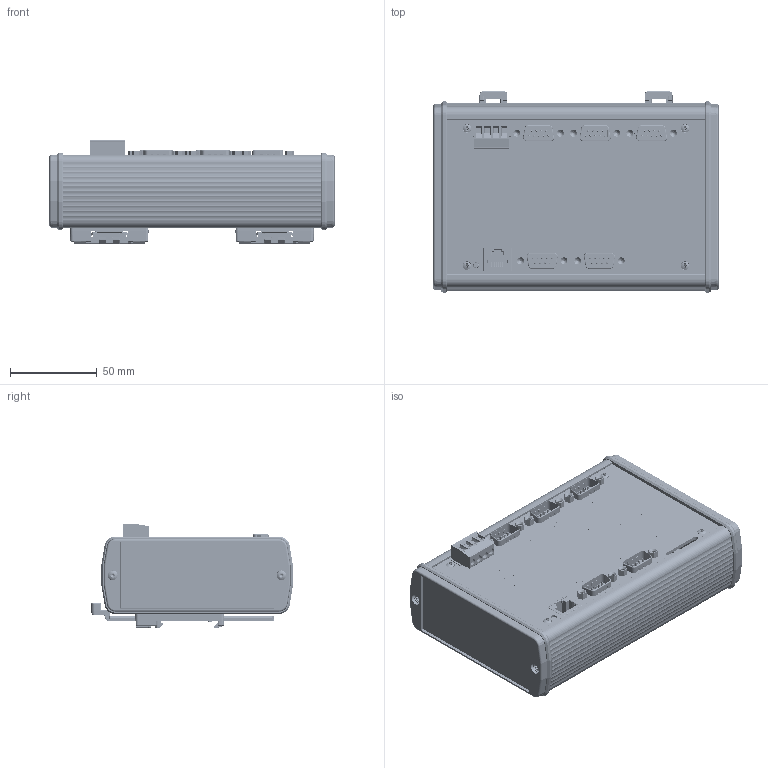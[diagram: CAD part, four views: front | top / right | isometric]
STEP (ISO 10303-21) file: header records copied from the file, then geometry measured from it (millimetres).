
FILE_DESCRIPTION(('STEP AP203'), '1');
FILE_NAME('扻艜豂錭歑 BCP-A9_', '', ('UNSPECIFIED'), ('UNSPECIFIED'), 'ASCON STEP Converter 1.3', 'ASCON Math Kernel', '');
FILE_SCHEMA(('CONFIG_CONTROL_DESIGN'));
Length unit declared in the file: millimetre
Products named in the file (50): 22035000_TSH 35; 1009865_3D; 1009864_3D; SHR Z KA30x8 WN 1412 mG_3Dsym; 71069939_1; 71069939_2; 71069939_3; 71069939_4; 71069939_5; 71069939_6; 71069939_7; 71069939_8; 71069939_9; 71069939_10; 71069939_11; 71069939_12; 71069939_13; 71069939_14; 71069939_15; 71069939_16; 71069939_17; 1; 2; 3; 4; 5; SWT-3; mstba_2.5-4-g; DI 1040_1008096_3DSYM; TEIL1; mstb_2.5-4-st
Assembly tree (63 placements, depth 5):
  (unnamed)
    (unnamed)
      (unnamed)
        (unnamed)
        22035000_TSH 35
          1009865_3D
          1009864_3D
          SHR Z KA30x8 WN 1412 mG_3Dsym  x4
        22035000_TSH 35
          1009865_3D
          1009864_3D
          SHR Z KA30x8 WN 1412 mG_3Dsym  x4
      (unnamed)
        (unnamed)
        (unnamed)  x5
          71069939_1
          71069939_2
          71069939_3
          71069939_4
          71069939_5
          71069939_6
          71069939_7
          71069939_8
          71069939_9
          71069939_10
          71069939_11
          71069939_12
          71069939_13
          71069939_14
          71069939_15
          71069939_16
          71069939_17
        (unnamed)
          1
          2
          3
          4
          5
        SWT-3
        mstba_2.5-4-g
      (unnamed)
      (unnamed)
      (unnamed)
      (unnamed)
      DI 1040_1008096_3DSYM
      TEIL1
      DI 1040_1008096_3DSYM
      TEIL1
      (unnamed)  x4
    mstb_2.5-4-st
Bounding box: 164 x 116.01 x 59.6 mm (x, y, z)
Volume: 190823.2 mm3; surface area: 214939 mm2
Topology: 124 solids, 124 shells, 13019 faces, 35220 edges, 22702 vertices
Faces by surface type: cylinder 6060, plane 5962, cone 292, torus 286, sphere 231, bspline 188
Full cylindrical faces by diameter (mm): 0.9 x4, 0.95 x4, 1 x90, 1.2 x1, 1.35 x4, 1.7 x1, 2.013 x20, 2.4 x1, 2.5 x18, 2.7 x14, 2.8 x4, 2.9 x4, 3.3 x4, 3.5 x2, 3.8 x41, 4.7 x4, 5 x8, 5.05 x1, 5.3 x8, 5.6 x8, 6 x8, 6.4 x4
Entity records: 429068 total; most frequent: CARTESIAN_POINT 78141, DIRECTION 57061, ORIENTED_EDGE 55642, EDGE_CURVE 27821, AXIS2_PLACEMENT_3D 20492, VERTEX_POINT 18108, LINE 16077, VECTOR 16077
